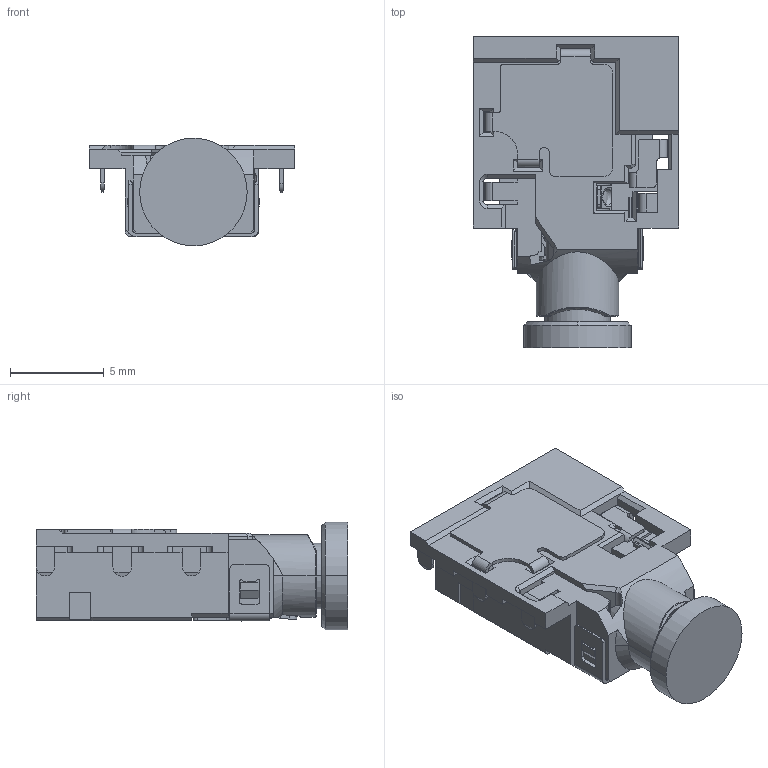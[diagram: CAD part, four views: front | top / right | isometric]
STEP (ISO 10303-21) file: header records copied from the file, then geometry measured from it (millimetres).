
FILE_DESCRIPTION((''),'2;1');
FILE_NAME('_1_25_J3C-23_230530_ASM','2023-05-30T',('A'),(''),'PRO/ENGINEER BY PARAMETRIC TECHNOLOGY CORPORATION, 2011310','PRO/ENGINEER BY PARAMETRIC TECHNOLOGY CORPORATION, 2011310','');
FILE_SCHEMA(('CONFIG_CONTROL_DESIGN'));
Length unit declared in the file: millimetre
Products named in the file (4): 3_5MM_PLUG; J3C-XX; __1_25_J3C-23_______________230_ASM; _1_25_J3C-23_230530_ASM
Assembly tree (3 placements, depth 3):
  _1_25_J3C-23_230530_ASM
    __1_25_J3C-23_______________230_ASM
      3_5MM_PLUG
      J3C-XX
Bounding box: 10.95 x 16.65 x 5.74 mm (x, y, z)
Volume: 495.6 mm3; surface area: 1090.3 mm2
Topology: 2 solids, 4 shells, 770 faces, 2316 edges, 1538 vertices
Faces by surface type: plane 499, cylinder 200, cone 27, torus 17, bspline 17, sphere 10
Entity records: 27167 total; most frequent: CARTESIAN_POINT 6282, ORIENTED_EDGE 4484, DIRECTION 4118, EDGE_CURVE 2242, VECTOR 1598, LINE 1598, VERTEX_POINT 1468, AXIS2_PLACEMENT_3D 1260
